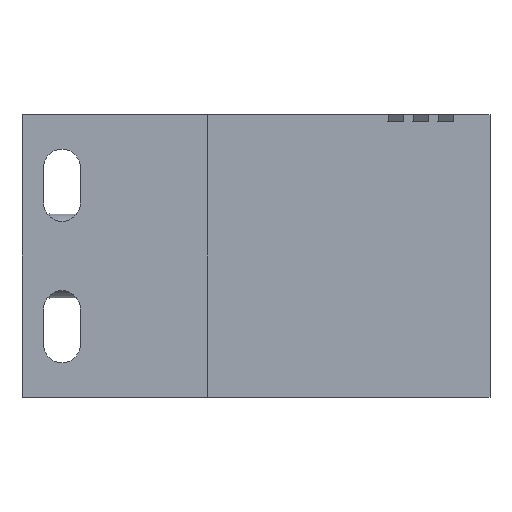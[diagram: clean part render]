
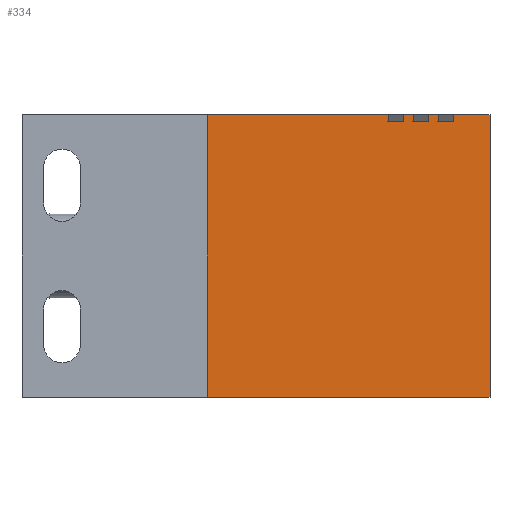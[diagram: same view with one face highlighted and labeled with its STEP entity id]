
A CAD part, front view. The second image highlights one B-rep face of the part: STEP entity #334.
In plain terms, the highlighted planar face has unit normal (0, -1, 0).
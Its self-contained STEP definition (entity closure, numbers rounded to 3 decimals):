
#334 = ADVANCED_FACE( '', ( #700 ), #701, .T. );
#700 = FACE_OUTER_BOUND( '', #1082, .T. );
#701 = PLANE( '', #1083 );
#1082 = EDGE_LOOP( '', ( #2419, #2420, #2421, #2422, #2423, #2424, #2425, #2426, #2427, #2428, #2429, #2430, #2431, #2432, #2433, #2434 ) );
#1083 = AXIS2_PLACEMENT_3D( '', #2435, #2436, #2437 );
#2419 = ORIENTED_EDGE( '', *, *, #2975, .T. );
#2420 = ORIENTED_EDGE( '', *, *, #2980, .T. );
#2421 = ORIENTED_EDGE( '', *, *, #2973, .T. );
#2422 = ORIENTED_EDGE( '', *, *, #2981, .F. );
#2423 = ORIENTED_EDGE( '', *, *, #2982, .T. );
#2424 = ORIENTED_EDGE( '', *, *, #2983, .T. );
#2425 = ORIENTED_EDGE( '', *, *, #2984, .T. );
#2426 = ORIENTED_EDGE( '', *, *, #2985, .F. );
#2427 = ORIENTED_EDGE( '', *, *, #2986, .T. );
#2428 = ORIENTED_EDGE( '', *, *, #2987, .T. );
#2429 = ORIENTED_EDGE( '', *, *, #2988, .T. );
#2430 = ORIENTED_EDGE( '', *, *, #2989, .F. );
#2431 = ORIENTED_EDGE( '', *, *, #2990, .T. );
#2432 = ORIENTED_EDGE( '', *, *, #2991, .T. );
#2433 = ORIENTED_EDGE( '', *, *, #2970, .F. );
#2434 = ORIENTED_EDGE( '', *, *, #2992, .F. );
#2435 = CARTESIAN_POINT( '', ( 26.15, 0., 20. ) );
#2436 = DIRECTION( '', ( 0., -1., 0. ) );
#2437 = DIRECTION( '', ( -1., 0., 0. ) );
#2970 = EDGE_CURVE( '', #3701, #3696, #3703, .T. );
#2973 = EDGE_CURVE( '', #3704, #3706, #3708, .T. );
#2975 = EDGE_CURVE( '', #3712, #3709, #3713, .T. );
#2980 = EDGE_CURVE( '', #3709, #3704, #3719, .T. );
#2981 = EDGE_CURVE( '', #3720, #3706, #3721, .T. );
#2982 = EDGE_CURVE( '', #3720, #3722, #3723, .T. );
#2983 = EDGE_CURVE( '', #3722, #3724, #3725, .T. );
#2984 = EDGE_CURVE( '', #3724, #3726, #3727, .T. );
#2985 = EDGE_CURVE( '', #3728, #3726, #3729, .T. );
#2986 = EDGE_CURVE( '', #3728, #3730, #3731, .T. );
#2987 = EDGE_CURVE( '', #3730, #3732, #3733, .T. );
#2988 = EDGE_CURVE( '', #3732, #3734, #3735, .T. );
#2989 = EDGE_CURVE( '', #3736, #3734, #3737, .T. );
#2990 = EDGE_CURVE( '', #3736, #3738, #3739, .T. );
#2991 = EDGE_CURVE( '', #3738, #3696, #3740, .T. );
#2992 = EDGE_CURVE( '', #3712, #3701, #3741, .T. );
#3696 = VERTEX_POINT( '', #4769 );
#3701 = VERTEX_POINT( '', #4776 );
#3703 = LINE( '', #4779, #4780 );
#3704 = VERTEX_POINT( '', #4781 );
#3706 = VERTEX_POINT( '', #4784 );
#3708 = LINE( '', #4787, #4788 );
#3709 = VERTEX_POINT( '', #4789 );
#3712 = VERTEX_POINT( '', #4793 );
#3713 = LINE( '', #4794, #4795 );
#3719 = LINE( '', #4803, #4804 );
#3720 = VERTEX_POINT( '', #4805 );
#3721 = LINE( '', #4806, #4807 );
#3722 = VERTEX_POINT( '', #4808 );
#3723 = LINE( '', #4809, #4810 );
#3724 = VERTEX_POINT( '', #4811 );
#3725 = LINE( '', #4812, #4813 );
#3726 = VERTEX_POINT( '', #4814 );
#3727 = LINE( '', #4815, #4816 );
#3728 = VERTEX_POINT( '', #4817 );
#3729 = LINE( '', #4818, #4819 );
#3730 = VERTEX_POINT( '', #4820 );
#3731 = LINE( '', #4821, #4822 );
#3732 = VERTEX_POINT( '', #4823 );
#3733 = LINE( '', #4824, #4825 );
#3734 = VERTEX_POINT( '', #4826 );
#3735 = LINE( '', #4827, #4828 );
#3736 = VERTEX_POINT( '', #4829 );
#3737 = LINE( '', #4830, #4831 );
#3738 = VERTEX_POINT( '', #4832 );
#3739 = LINE( '', #4833, #4834 );
#3740 = LINE( '', #4835, #4836 );
#3741 = LINE( '', #4837, #4838 );
#4769 = CARTESIAN_POINT( '', ( 66.15, 0., -20. ) );
#4776 = CARTESIAN_POINT( '', ( 66.15, 0., 20. ) );
#4779 = CARTESIAN_POINT( '', ( 66.15, 0., 20. ) );
#4780 = VECTOR( '', #5589, 1. );
#4781 = CARTESIAN_POINT( '', ( 58.842, 0., 19. ) );
#4784 = CARTESIAN_POINT( '', ( 58.842, 0., 20. ) );
#4787 = CARTESIAN_POINT( '', ( 58.842, 0., 20. ) );
#4788 = VECTOR( '', #5592, 1. );
#4789 = CARTESIAN_POINT( '', ( 60.964, 0., 19. ) );
#4793 = CARTESIAN_POINT( '', ( 60.964, 0., 20. ) );
#4794 = CARTESIAN_POINT( '', ( 60.964, 0., 20. ) );
#4795 = VECTOR( '', #5594, 1. );
#4803 = CARTESIAN_POINT( '', ( 26.15, 0., 19. ) );
#4804 = VECTOR( '', #5603, 1. );
#4805 = CARTESIAN_POINT( '', ( 57.428, 0., 20. ) );
#4806 = CARTESIAN_POINT( '', ( 26.15, 0., 20. ) );
#4807 = VECTOR( '', #5604, 1. );
#4808 = CARTESIAN_POINT( '', ( 57.428, 0., 19. ) );
#4809 = CARTESIAN_POINT( '', ( 57.428, 0., 20. ) );
#4810 = VECTOR( '', #5605, 1. );
#4811 = CARTESIAN_POINT( '', ( 55.31, 0., 19. ) );
#4812 = CARTESIAN_POINT( '', ( 26.15, 0., 19. ) );
#4813 = VECTOR( '', #5606, 1. );
#4814 = CARTESIAN_POINT( '', ( 55.31, 0., 20. ) );
#4815 = CARTESIAN_POINT( '', ( 55.31, 0., 20. ) );
#4816 = VECTOR( '', #5607, 1. );
#4817 = CARTESIAN_POINT( '', ( 53.892, 0., 20. ) );
#4818 = CARTESIAN_POINT( '', ( 26.15, 0., 20. ) );
#4819 = VECTOR( '', #5608, 1. );
#4820 = CARTESIAN_POINT( '', ( 53.892, 0., 19. ) );
#4821 = CARTESIAN_POINT( '', ( 53.892, 0., 20. ) );
#4822 = VECTOR( '', #5609, 1. );
#4823 = CARTESIAN_POINT( '', ( 51.771, 0., 19. ) );
#4824 = CARTESIAN_POINT( '', ( 26.15, 0., 19. ) );
#4825 = VECTOR( '', #5610, 1. );
#4826 = CARTESIAN_POINT( '', ( 51.771, 0., 20. ) );
#4827 = CARTESIAN_POINT( '', ( 51.771, 0., 20. ) );
#4828 = VECTOR( '', #5611, 1. );
#4829 = CARTESIAN_POINT( '', ( 26.15, 0., 20. ) );
#4830 = CARTESIAN_POINT( '', ( 26.15, 0., 20. ) );
#4831 = VECTOR( '', #5612, 1. );
#4832 = CARTESIAN_POINT( '', ( 26.15, 0., -20. ) );
#4833 = CARTESIAN_POINT( '', ( 26.15, 0., 20. ) );
#4834 = VECTOR( '', #5613, 1. );
#4835 = CARTESIAN_POINT( '', ( 64.45, 0., -20. ) );
#4836 = VECTOR( '', #5614, 1. );
#4837 = CARTESIAN_POINT( '', ( 26.15, 0., 20. ) );
#4838 = VECTOR( '', #5615, 1. );
#5589 = DIRECTION( '', ( 0., 0., -1. ) );
#5592 = DIRECTION( '', ( 0., 0., 1. ) );
#5594 = DIRECTION( '', ( 0., 0., -1. ) );
#5603 = DIRECTION( '', ( -1., 0., 0. ) );
#5604 = DIRECTION( '', ( 1., 0., 0. ) );
#5605 = DIRECTION( '', ( 0., 0., -1. ) );
#5606 = DIRECTION( '', ( -1., 0., 0. ) );
#5607 = DIRECTION( '', ( 0., 0., 1. ) );
#5608 = DIRECTION( '', ( 1., 0., 0. ) );
#5609 = DIRECTION( '', ( 0., 0., -1. ) );
#5610 = DIRECTION( '', ( -1., 0., 0. ) );
#5611 = DIRECTION( '', ( 0., 0., 1. ) );
#5612 = DIRECTION( '', ( 1., 0., 0. ) );
#5613 = DIRECTION( '', ( 0., 0., -1. ) );
#5614 = DIRECTION( '', ( 1., 0., 0. ) );
#5615 = DIRECTION( '', ( 1., 0., 0. ) );
